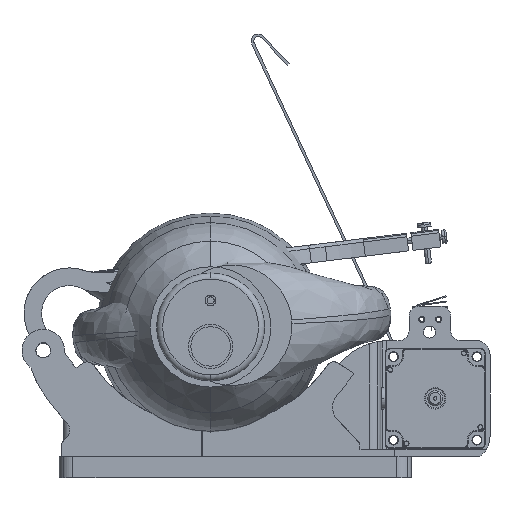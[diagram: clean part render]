
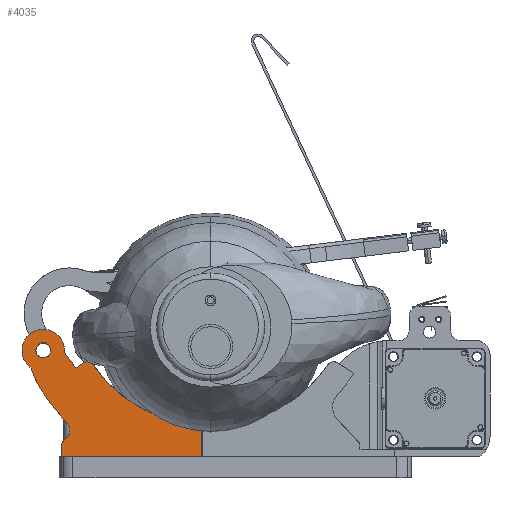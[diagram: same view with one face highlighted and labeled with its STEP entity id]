
A CAD part, left-side view. The second image highlights one B-rep face of the part: STEP entity #4035.
In plain terms, the highlighted planar face has unit normal (-1, 0, 0).
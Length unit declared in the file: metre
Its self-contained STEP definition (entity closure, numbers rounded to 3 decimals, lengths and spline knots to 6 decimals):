
#4035=ADVANCED_FACE('1582:87',(#8018,#8019),#8020,.T.);
#8018=FACE_BOUND('',#28601,.T.);
#8019=FACE_OUTER_BOUND('',#28602,.T.);
#8020=PLANE('',#28603);
#28601=EDGE_LOOP('',(#40153,#40154,#40155,#40156,#40157,#40158));
#28602=EDGE_LOOP('',(#40159,#40160,#40161,#40162,#40163,#40164,#40165,#40166,#40167,#40168,#40169,#40170,#40171,#40172,#40173,#40174));
#28603=AXIS2_PLACEMENT_3D('',#40175,#40176,#40177);
#40153=ORIENTED_EDGE('',*,*,#45799,.F.);
#40154=ORIENTED_EDGE('',*,*,#45781,.F.);
#40155=ORIENTED_EDGE('',*,*,#45786,.F.);
#40156=ORIENTED_EDGE('',*,*,#45803,.F.);
#40157=ORIENTED_EDGE('',*,*,#45804,.F.);
#40158=ORIENTED_EDGE('',*,*,#45805,.F.);
#40159=ORIENTED_EDGE('',*,*,#45806,.T.);
#40160=ORIENTED_EDGE('',*,*,#45772,.F.);
#40161=ORIENTED_EDGE('',*,*,#45777,.F.);
#40162=ORIENTED_EDGE('',*,*,#45807,.F.);
#40163=ORIENTED_EDGE('',*,*,#45808,.T.);
#40164=ORIENTED_EDGE('',*,*,#45809,.F.);
#40165=ORIENTED_EDGE('',*,*,#45810,.F.);
#40166=ORIENTED_EDGE('',*,*,#45725,.F.);
#40167=ORIENTED_EDGE('',*,*,#45811,.T.);
#40168=ORIENTED_EDGE('',*,*,#45812,.F.);
#40169=ORIENTED_EDGE('',*,*,#45813,.T.);
#40170=ORIENTED_EDGE('',*,*,#45814,.T.);
#40171=ORIENTED_EDGE('',*,*,#45815,.F.);
#40172=ORIENTED_EDGE('',*,*,#45816,.F.);
#40173=ORIENTED_EDGE('',*,*,#45720,.F.);
#40174=ORIENTED_EDGE('',*,*,#45817,.T.);
#40175=CARTESIAN_POINT('',(-0.0375,0.0,-0.073912));
#40176=DIRECTION('',(-1.0,0.,0.));
#40177=DIRECTION('',(0.,0.,-1.0));
#45720=EDGE_CURVE('1582:393',#51831,#51827,#51833,.T.);
#45725=EDGE_CURVE('1582:438',#51840,#51836,#51842,.T.);
#45772=EDGE_CURVE('1592:10242',#51925,#51927,#51928,.T.);
#45777=EDGE_CURVE('1592:10242',#51933,#51925,#51936,.T.);
#45781=EDGE_CURVE('1592:10236',#51940,#51942,#51943,.T.);
#45786=EDGE_CURVE('1592:10236',#51948,#51940,#51951,.T.);
#45799=EDGE_CURVE('1589:1161',#51942,#51972,#51973,.T.);
#45803=EDGE_CURVE('1592:10236',#51978,#51948,#51979,.T.);
#45804=EDGE_CURVE('1589:1167',#51980,#51978,#51981,.T.);
#45805=EDGE_CURVE('1589:1149',#51972,#51980,#51982,.T.);
#45806=EDGE_CURVE('1582:249',#51983,#51927,#51984,.T.);
#45807=EDGE_CURVE('1592:10242',#51985,#51933,#51986,.T.);
#45808=EDGE_CURVE('1582:282',#51985,#51987,#51988,.T.);
#45809=EDGE_CURVE('1582:306',#51989,#51987,#51990,.T.);
#45810=EDGE_CURVE('1582:438',#51836,#51989,#51991,.T.);
#45811=EDGE_CURVE('1582:441',#51840,#51992,#51993,.T.);
#45812=EDGE_CURVE('1582:444',#51994,#51992,#51995,.T.);
#45813=EDGE_CURVE('1582:447',#51994,#51996,#51997,.T.);
#45814=EDGE_CURVE('1582:186',#51996,#51998,#51999,.T.);
#45815=EDGE_CURVE('1582:405',#52000,#51998,#52001,.T.);
#45816=EDGE_CURVE('1582:393',#51827,#52000,#52002,.T.);
#45817=EDGE_CURVE('1582:369',#51831,#51983,#52003,.T.);
#51827=VERTEX_POINT('',#62998);
#51831=VERTEX_POINT('',#63027);
#51833=CIRCLE('',#63030,0.004);
#51836=VERTEX_POINT('',#63033);
#51840=VERTEX_POINT('',#63068);
#51842=CIRCLE('',#63071,0.00638);
#51925=VERTEX_POINT('',#63413);
#51927=VERTEX_POINT('',#63416);
#51928=CIRCLE('',#63417,0.012);
#51933=VERTEX_POINT('',#63423);
#51936=CIRCLE('',#63427,0.012);
#51940=VERTEX_POINT('',#63431);
#51942=VERTEX_POINT('',#63434);
#51943=CIRCLE('',#63435,0.0042);
#51948=VERTEX_POINT('',#63441);
#51951=CIRCLE('',#63445,0.0042);
#51972=VERTEX_POINT('',#63474);
#51973=LINE('',#63475,#63476);
#51978=VERTEX_POINT('',#63483);
#51979=CIRCLE('',#63484,0.0042);
#51980=VERTEX_POINT('',#63485);
#51981=LINE('',#63486,#63487);
#51982=LINE('',#63488,#63489);
#51983=VERTEX_POINT('',#63490);
#51984=CIRCLE('',#63491,0.239393);
#51985=VERTEX_POINT('',#63492);
#51986=CIRCLE('',#63493,0.012);
#51987=VERTEX_POINT('',#63494);
#51988=CIRCLE('',#63495,0.05757);
#51989=VERTEX_POINT('',#63496);
#51990=CIRCLE('',#63497,0.11292);
#51991=CIRCLE('',#63498,0.00638);
#51992=VERTEX_POINT('',#63499);
#51993=LINE('',#63500,#63501);
#51994=VERTEX_POINT('',#63502);
#51995=LINE('',#63503,#63504);
#51996=VERTEX_POINT('',#63505);
#51997=LINE('',#63506,#63507);
#51998=VERTEX_POINT('',#63508);
#51999=LINE('',#63509,#63510);
#52000=VERTEX_POINT('',#63511);
#52001=CIRCLE('',#63512,0.080651);
#52002=CIRCLE('',#63513,0.004);
#52003=LINE('',#63514,#63515);
#62998=CARTESIAN_POINT('',(-0.0375,0.068785,-0.027463));
#63027=CARTESIAN_POINT('',(-0.0375,0.071712,-0.027988));
#63030=AXIS2_PLACEMENT_3D('',#70199,#70200,#70201);
#63033=CARTESIAN_POINT('',(-0.0375,0.079535,-0.065902));
#63068=CARTESIAN_POINT('',(-0.0375,0.081249,-0.070305));
#63071=AXIS2_PLACEMENT_3D('',#70204,#70205,#70206);
#63413=CARTESIAN_POINT('',(-0.0375,0.0825,-0.021));
#63416=CARTESIAN_POINT('',(-0.0375,0.082572,-0.022309));
#63417=AXIS2_PLACEMENT_3D('',#70254,#70255,#70256);
#63423=CARTESIAN_POINT('',(-0.0375,0.1065,-0.021));
#63427=AXIS2_PLACEMENT_3D('',#70262,#70263,#70264);
#63431=CARTESIAN_POINT('',(-0.0375,0.0903,-0.021));
#63434=CARTESIAN_POINT('',(-0.0375,0.093266,-0.016985));
#63435=AXIS2_PLACEMENT_3D('',#70269,#70270,#70271);
#63441=CARTESIAN_POINT('',(-0.0375,0.0987,-0.021));
#63445=AXIS2_PLACEMENT_3D('',#70277,#70278,#70279);
#63474=CARTESIAN_POINT('',(-0.0375,0.093266,-0.016513));
#63475=CARTESIAN_POINT('',(-0.0375,0.093266,-0.045344));
#63476=VECTOR('',#70291,1.0);
#63483=CARTESIAN_POINT('',(-0.0375,0.095766,-0.016995));
#63484=AXIS2_PLACEMENT_3D('',#70294,#70295,#70296);
#63485=CARTESIAN_POINT('',(-0.0375,0.095766,-0.016513));
#63486=CARTESIAN_POINT('',(-0.0375,0.095766,-0.016513));
#63487=VECTOR('',#70297,1.0);
#63488=CARTESIAN_POINT('',(-0.0375,0.047258,-0.016513));
#63489=VECTOR('',#70298,1.0);
#63490=CARTESIAN_POINT('',(-0.0375,0.076045,-0.030696));
#63491=AXIS2_PLACEMENT_3D('',#70299,#70300,#70301);
#63492=CARTESIAN_POINT('',(-0.0375,0.101285,-0.030897));
#63493=AXIS2_PLACEMENT_3D('',#70302,#70303,#70304);
#63494=CARTESIAN_POINT('',(-0.0375,0.096038,-0.042581));
#63495=AXIS2_PLACEMENT_3D('',#70305,#70306,#70307);
#63496=CARTESIAN_POINT('',(-0.0375,0.081321,-0.061527));
#63497=AXIS2_PLACEMENT_3D('',#70308,#70309,#70310);
#63498=AXIS2_PLACEMENT_3D('',#70311,#70312,#70313);
#63499=CARTESIAN_POINT('',(-0.0375,0.084032,-0.07329));
#63500=CARTESIAN_POINT('',(-0.0375,0.055006,-0.042163));
#63501=VECTOR('',#70314,1.0);
#63502=CARTESIAN_POINT('',(-0.0375,0.084032,-0.080969));
#63503=CARTESIAN_POINT('',(-0.0375,0.084032,-0.075521));
#63504=VECTOR('',#70315,1.0);
#63505=CARTESIAN_POINT('',(-0.0375,0.00509,-0.080969));
#63506=CARTESIAN_POINT('',(-0.0375,-0.063426,-0.080969));
#63507=VECTOR('',#70316,1.0);
#63508=CARTESIAN_POINT('',(-0.0375,0.00509,-0.063664));
#63509=CARTESIAN_POINT('',(-0.0375,0.00509,-0.07744));
#63510=VECTOR('',#70317,1.0);
#63511=CARTESIAN_POINT('',(-0.0375,0.066304,-0.029103));
#63512=AXIS2_PLACEMENT_3D('',#70318,#70319,#70320);
#63513=AXIS2_PLACEMENT_3D('',#70321,#70322,#70323);
#63514=CARTESIAN_POINT('',(-0.0375,0.0684,-0.025919));
#63515=VECTOR('',#70324,1.);
#70199=CARTESIAN_POINT('',(-0.0375,0.069592,-0.03138));
#70200=DIRECTION('',(1.0,0.,0.));
#70201=DIRECTION('',(0.,-0.202,0.979));
#70204=CARTESIAN_POINT('',(-0.0375,0.085915,-0.065954));
#70205=DIRECTION('',(-1.0,0.,0.));
#70206=DIRECTION('',(0.,-1.,0.008));
#70254=CARTESIAN_POINT('',(-0.0375,0.0945,-0.021));
#70255=DIRECTION('',(1.0,0.,0.));
#70256=DIRECTION('',(0.,1.0,0.));
#70262=CARTESIAN_POINT('',(-0.0375,0.0945,-0.021));
#70263=DIRECTION('',(1.0,0.,0.));
#70264=DIRECTION('',(0.,1.0,0.));
#70269=CARTESIAN_POINT('',(-0.0375,0.0945,-0.021));
#70270=DIRECTION('',(-1.0,0.,0.));
#70271=DIRECTION('',(0.,1.0,0.));
#70277=CARTESIAN_POINT('',(-0.0375,0.0945,-0.021));
#70278=DIRECTION('',(-1.0,0.,0.));
#70279=DIRECTION('',(0.,1.0,0.));
#70291=DIRECTION('',(0.,0.,1.0));
#70294=CARTESIAN_POINT('',(-0.0375,0.0945,-0.021));
#70295=DIRECTION('',(-1.0,0.,0.));
#70296=DIRECTION('',(0.,1.0,0.));
#70297=DIRECTION('',(0.,0.0,-1.0));
#70298=DIRECTION('',(0.,1.0,0.));
#70299=CARTESIAN_POINT('',(-0.0375,-0.109573,0.120483));
#70300=DIRECTION('',(1.0,0.,0.));
#70301=DIRECTION('',(0.,0.822,-0.57));
#70302=CARTESIAN_POINT('',(-0.0375,0.0945,-0.021));
#70303=DIRECTION('',(1.0,0.,0.));
#70304=DIRECTION('',(0.,1.0,0.));
#70305=CARTESIAN_POINT('',(-0.0375,0.046471,-0.013299));
#70306=DIRECTION('',(-1.0,0.,0.));
#70307=DIRECTION('',(0.,0.987,-0.158));
#70308=CARTESIAN_POINT('',(-0.0375,0.000009,0.016827));
#70309=DIRECTION('',(1.0,0.,0.));
#70310=DIRECTION('',(0.,0.682,-0.731));
#70311=CARTESIAN_POINT('',(-0.0375,0.085915,-0.065954));
#70312=DIRECTION('',(-1.0,0.,0.));
#70313=DIRECTION('',(0.,-1.,0.008));
#70314=DIRECTION('',(0.,0.682,-0.731));
#70315=DIRECTION('',(0.,0.,1.0));
#70316=DIRECTION('',(0.,-1.0,0.));
#70317=DIRECTION('',(0.,0.,1.0));
#70318=CARTESIAN_POINT('',(-0.0375,0.000009,0.016827));
#70319=DIRECTION('',(-1.0,0.,0.));
#70320=DIRECTION('',(0.,0.,-1.));
#70321=CARTESIAN_POINT('',(-0.0375,0.069592,-0.03138));
#70322=DIRECTION('',(1.0,0.,0.));
#70323=DIRECTION('',(0.,-0.202,0.979));
#70324=DIRECTION('',(0.,0.848,-0.53));
